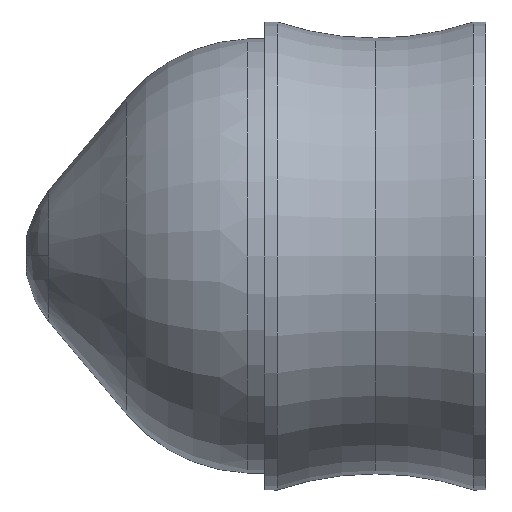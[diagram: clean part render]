
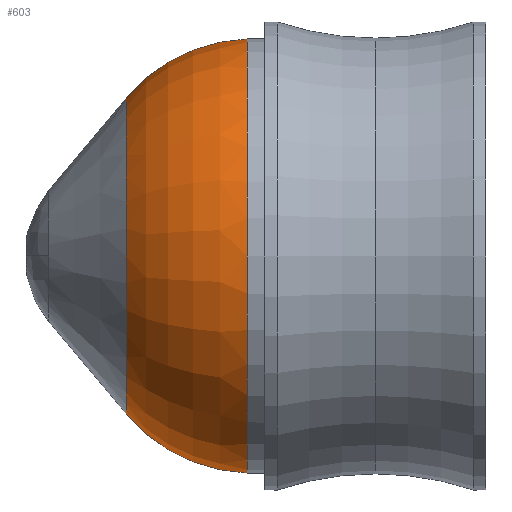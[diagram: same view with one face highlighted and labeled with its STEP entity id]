
A CAD part, front view. The second image highlights one B-rep face of the part: STEP entity #603.
In plain terms, the highlighted toroidal (fillet/blend) face has major radius 2.525 mm and minor radius 8.1 mm.
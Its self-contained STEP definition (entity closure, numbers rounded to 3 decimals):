
#6 = CARTESIAN_POINT ( 'NONE',  ( -11.385, 0., 2.525 ) ) ;
#10 = FACE_OUTER_BOUND ( 'NONE', #1181, .T. ) ;
#112 = DIRECTION ( 'NONE',  ( 1., 0., 0. ) ) ;
#136 = ORIENTED_EDGE ( 'NONE', *, *, #2037, .F. ) ;
#175 = VERTEX_POINT ( 'NONE', #716 ) ;
#380 = CIRCLE ( 'NONE', #1541, 8.1 ) ;
#415 = ORIENTED_EDGE ( 'NONE', *, *, #1765, .T. ) ;
#434 = DIRECTION ( 'NONE',  ( 0., 0., -1. ) ) ;
#471 = VERTEX_POINT ( 'NONE', #2014 ) ;
#603 = ADVANCED_FACE ( 'NONE', ( #10 ), #1593, .T. ) ;
#643 = DIRECTION ( 'NONE',  ( 0., 1., 0. ) ) ;
#716 = CARTESIAN_POINT ( 'NONE',  ( -17.59, 0., -7.731 ) ) ;
#729 = CIRCLE ( 'NONE', #891, 7.731 ) ;
#780 = DIRECTION ( 'NONE',  ( 0., 0., 1. ) ) ;
#811 = DIRECTION ( 'NONE',  ( 1., 0., 0. ) ) ;
#848 = CARTESIAN_POINT ( 'NONE',  ( -11.667, 0., -10.62 ) ) ;
#891 = AXIS2_PLACEMENT_3D ( 'NONE', #1655, #112, #1370 ) ;
#934 = DIRECTION ( 'NONE',  ( 0., 0., -1. ) ) ;
#938 = DIRECTION ( 'NONE',  ( 0., 0., -1. ) ) ;
#966 = ORIENTED_EDGE ( 'NONE', *, *, #1125, .T. ) ;
#1020 = CARTESIAN_POINT ( 'NONE',  ( -11.385, 0., -2.525 ) ) ;
#1056 = CIRCLE ( 'NONE', #1420, 10.62 ) ;
#1118 = ORIENTED_EDGE ( 'NONE', *, *, #1288, .F. ) ;
#1119 = VERTEX_POINT ( 'NONE', #848 ) ;
#1125 = EDGE_CURVE ( 'NONE', #175, #1119, #380, .T. ) ;
#1181 = EDGE_LOOP ( 'NONE', ( #1118, #415, #966, #136 ) ) ;
#1288 = EDGE_CURVE ( 'NONE', #1596, #471, #2002, .T. ) ;
#1370 = DIRECTION ( 'NONE',  ( 0., 0., -1. ) ) ;
#1395 = CARTESIAN_POINT ( 'NONE',  ( -11.667, 0., 0. ) ) ;
#1420 = AXIS2_PLACEMENT_3D ( 'NONE', #1395, #1866, #938 ) ;
#1495 = CARTESIAN_POINT ( 'NONE',  ( -17.59, 0., 7.731 ) ) ;
#1541 = AXIS2_PLACEMENT_3D ( 'NONE', #1020, #1846, #434 ) ;
#1593 = TOROIDAL_SURFACE ( 'NONE', #1754, 2.525, 8.1 ) ;
#1596 = VERTEX_POINT ( 'NONE', #1495 ) ;
#1655 = CARTESIAN_POINT ( 'NONE',  ( -17.59, 0., 0. ) ) ;
#1754 = AXIS2_PLACEMENT_3D ( 'NONE', #1901, #811, #934 ) ;
#1765 = EDGE_CURVE ( 'NONE', #1596, #175, #729, .T. ) ;
#1795 = AXIS2_PLACEMENT_3D ( 'NONE', #6, #643, #780 ) ;
#1846 = DIRECTION ( 'NONE',  ( 0., -1., 0. ) ) ;
#1866 = DIRECTION ( 'NONE',  ( 1., 0., 0. ) ) ;
#1901 = CARTESIAN_POINT ( 'NONE',  ( -11.385, 0., 0. ) ) ;
#2002 = CIRCLE ( 'NONE', #1795, 8.1 ) ;
#2014 = CARTESIAN_POINT ( 'NONE',  ( -11.667, 0., 10.62 ) ) ;
#2037 = EDGE_CURVE ( 'NONE', #471, #1119, #1056, .T. ) ;
